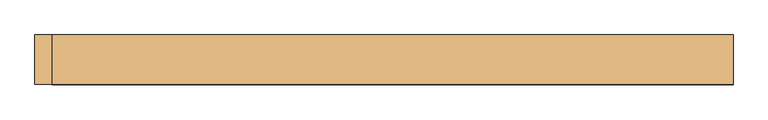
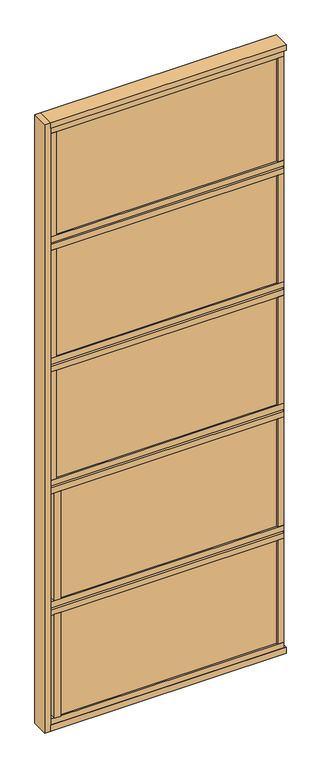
"""IFC4 building model written with IfcOpenShell, lengths in millimetres: door geometry, Mobiliário_Mobiliário de Escritório_Painel de Vidro Duplo - AV5T (Inicial e Final)_Marelli : AV5T - Temperado."""

from ifc_helpers import new_model, si_unit, frame, origin, origin_with_axes, place, context, project, spatial, polyline, outline, extrude, source, transform, mapped, element, save


def door_3b1d9ea4(model_context):
    return source(origin(), model_context, "Body", "SweptSolid", [
        extrude(outline(polyline([(600.0, 42.5), (600.0, -42.5), (-570.0, -42.5), (-570.0, 42.5), (600.0, 42.5)])), origin_with_axes(), (0.0, 0.0, 1.0), 30.0),
        extrude(outline(polyline([(590.0, 21.5), (590.0, -21.5), (-570.0, -21.5), (-570.0, 21.5), (590.0, 21.5)])), frame((0.0, 0.0, 2555.0), z_axis=(0.0, 0.0, 1.0), x_axis=(1.0, 0.0, 0.0)), (0.0, 0.0, 1.0), 10.0),
        extrude(outline(polyline([(590.0, 39.5), (590.0, -39.5), (-570.0, -39.5), (-570.0, 39.5), (590.0, 39.5)])), frame((0.0, 0.0, 2565.0), z_axis=(0.0, 0.0, 1.0), x_axis=(1.0, 0.0, 0.0)), (0.0, 0.0, 1.0), 30.0),
        extrude(outline(polyline([(-540.0, 39.5), (-540.0, -39.5), (-570.0, -39.5), (-570.0, 39.5), (-540.0, 39.5)])), frame((0.0, 0.0, 2595.0), z_axis=(0.0, 0.0, 1.0), x_axis=(1.0, 0.0, 0.0)), (0.0, 0.0, 1.0), 545.0),
        extrude(outline(polyline([(560.0, 39.5), (590.0, 39.5), (590.0, -39.5), (560.0, -39.5), (560.0, 39.5)])), frame((0.0, 0.0, 2595.0), z_axis=(0.0, 0.0, 1.0), x_axis=(1.0, 0.0, 0.0)), (0.0, 0.0, 1.0), 545.0),
        extrude(outline(polyline([(560.0, -25.5), (560.0, -31.5), (-540.0, -31.5), (-540.0, -25.5), (560.0, -25.5)])), frame((0.0, 0.0, 2595.0), z_axis=(0.0, 0.0, 1.0), x_axis=(1.0, 0.0, 0.0)), (0.0, 0.0, 1.0), 545.0),
        extrude(outline(polyline([(590.0, 39.5), (590.0, -39.5), (-570.0, -39.5), (-570.0, 39.5), (590.0, 39.5)])), frame((0.0, 0.0, 2525.0), z_axis=(0.0, 0.0, 1.0), x_axis=(1.0, 0.0, 0.0)), (0.0, 0.0, 1.0), 30.0),
        extrude(outline(polyline([(590.0, 39.5), (590.0, -39.5), (-570.0, -39.5), (-570.0, 39.5), (590.0, 39.5)])), frame((0.0, 0.0, 1925.0), z_axis=(0.0, 0.0, 1.0), x_axis=(1.0, 0.0, 0.0)), (0.0, 0.0, 1.0), 30.0),
        extrude(outline(polyline([(590.0, 21.5), (590.0, -21.5), (-570.0, -21.5), (-570.0, 21.5), (590.0, 21.5)])), frame((0.0, 0.0, 1915.0), z_axis=(0.0, 0.0, 1.0), x_axis=(1.0, 0.0, 0.0)), (0.0, 0.0, 1.0), 10.0),
        extrude(outline(polyline([(590.0, 21.5), (590.0, -21.5), (-570.0, -21.5), (-570.0, 21.5), (590.0, 21.5)])), frame((0.0, 0.0, 1275.0), z_axis=(0.0, 0.0, 1.0), x_axis=(1.0, 0.0, 0.0)), (0.0, 0.0, 1.0), 10.0),
        extrude(outline(polyline([(590.0, 21.5), (590.0, -21.5), (-570.0, -21.5), (-570.0, 21.5), (590.0, 21.5)])), frame((0.0, 0.0, 635.0), z_axis=(0.0, 0.0, 1.0), x_axis=(1.0, 0.0, 0.0)), (0.0, 0.0, 1.0), 10.0),
        extrude(outline(polyline([(590.0, 39.5), (590.0, -39.5), (-570.0, -39.5), (-570.0, 39.5), (590.0, 39.5)])), frame((0.0, 0.0, 1285.0), z_axis=(0.0, 0.0, 1.0), x_axis=(1.0, 0.0, 0.0)), (0.0, 0.0, 1.0), 30.0),
        extrude(outline(polyline([(-540.0, 39.5), (-540.0, -39.5), (-570.0, -39.5), (-570.0, 39.5), (-540.0, 39.5)])), frame((0.0, 0.0, 1315.0), z_axis=(0.0, 0.0, 1.0), x_axis=(1.0, 0.0, 0.0)), (0.0, 0.0, 1.0), 570.0),
        extrude(outline(polyline([(560.0, 39.5), (590.0, 39.5), (590.0, -39.5), (560.0, -39.5), (560.0, 39.5)])), frame((0.0, 0.0, 1315.0), z_axis=(0.0, 0.0, 1.0), x_axis=(1.0, 0.0, 0.0)), (0.0, 0.0, 1.0), 570.0),
        extrude(outline(polyline([(590.0, 39.5), (590.0, -39.5), (-570.0, -39.5), (-570.0, 39.5), (590.0, 39.5)])), frame((0.0, 0.0, 1885.0), z_axis=(0.0, 0.0, 1.0), x_axis=(1.0, 0.0, 0.0)), (0.0, 0.0, 1.0), 30.0),
        extrude(outline(polyline([(590.0, 39.5), (590.0, -39.5), (-570.0, -39.5), (-570.0, 39.5), (590.0, 39.5)])), frame((0.0, 0.0, 1245.0), z_axis=(0.0, 0.0, 1.0), x_axis=(1.0, 0.0, 0.0)), (0.0, 0.0, 1.0), 30.0),
        extrude(outline(polyline([(590.0, 39.5), (590.0, -39.5), (-570.0, -39.5), (-570.0, 39.5), (590.0, 39.5)])), frame((0.0, 0.0, 645.0), z_axis=(0.0, 0.0, 1.0), x_axis=(1.0, 0.0, 0.0)), (0.0, 0.0, 1.0), 30.0),
        extrude(outline(polyline([(-520.0, 39.5), (-520.0, -39.5), (-550.0, -39.5), (-550.0, 39.5), (-520.0, 39.5)])), frame((0.0, 0.0, 60.0), z_axis=(0.0, 0.0, 1.0), x_axis=(1.0, 0.0, 0.0)), (0.0, 0.0, 1.0), 545.0),
        extrude(outline(polyline([(560.0, 39.5), (590.0, 39.5), (590.0, -39.5), (560.0, -39.5), (560.0, 39.5)])), frame((0.0, 0.0, 60.0), z_axis=(0.0, 0.0, 1.0), x_axis=(1.0, 0.0, 0.0)), (0.0, 0.0, 1.0), 545.0),
        extrude(outline(polyline([(590.0, 39.5), (590.0, -39.5), (-570.0, -39.5), (-570.0, 39.5), (590.0, 39.5)])), frame((0.0, 0.0, 605.0), z_axis=(0.0, 0.0, 1.0), x_axis=(1.0, 0.0, 0.0)), (0.0, 0.0, 1.0), 30.0),
        extrude(outline(polyline([(590.0, 39.5), (590.0, -39.5), (-570.0, -39.5), (-570.0, 39.5), (590.0, 39.5)])), frame((0.0, 0.0, 30.0), z_axis=(0.0, 0.0, 1.0), x_axis=(1.0, 0.0, 0.0)), (0.0, 0.0, 1.0), 30.0),
        extrude(outline(polyline([(560.0, -25.5), (560.0, -31.5), (-540.0, -31.5), (-540.0, -25.5), (560.0, -25.5)])), frame((0.0, 0.0, 1315.0), z_axis=(0.0, 0.0, 1.0), x_axis=(1.0, 0.0, 0.0)), (0.0, 0.0, 1.0), 570.0),
        extrude(outline(polyline([(560.0, -25.5), (560.0, -31.5), (-540.0, -31.5), (-540.0, -25.5), (560.0, -25.5)])), frame((0.0, 0.0, 60.0), z_axis=(0.0, 0.0, 1.0), x_axis=(1.0, 0.0, 0.0)), (0.0, 0.0, 1.0), 545.0),
        extrude(outline(polyline([(560.0, 31.5), (560.0, 25.5), (-540.0, 25.5), (-540.0, 31.5), (560.0, 31.5)])), frame((0.0, 0.0, 2595.0), z_axis=(0.0, 0.0, 1.0), x_axis=(1.0, 0.0, 0.0)), (0.0, 0.0, 1.0), 545.0),
        extrude(outline(polyline([(560.0, 31.5), (560.0, 25.5), (-540.0, 25.5), (-540.0, 31.5), (560.0, 31.5)])), frame((0.0, 0.0, 1315.0), z_axis=(0.0, 0.0, 1.0), x_axis=(1.0, 0.0, 0.0)), (0.0, 0.0, 1.0), 570.0),
        extrude(outline(polyline([(560.0, 31.5), (560.0, 25.5), (-540.0, 25.5), (-540.0, 31.5), (560.0, 31.5)])), frame((0.0, 0.0, 60.0), z_axis=(0.0, 0.0, 1.0), x_axis=(1.0, 0.0, 0.0)), (0.0, 0.0, 1.0), 545.0),
        extrude(outline(polyline([(600.0, 42.5), (600.0, -42.5), (-570.0, -42.5), (-570.0, 42.5), (600.0, 42.5)])), frame((0.0, 0.0, 3170.0), z_axis=(0.0, 0.0, 1.0), x_axis=(1.0, 0.0, 0.0)), (0.0, 0.0, 1.0), 30.0),
        extrude(outline(polyline([(590.0, 39.5), (590.0, -39.5), (-570.0, -39.5), (-570.0, 39.5), (590.0, 39.5)])), frame((0.0, 0.0, 3140.0), z_axis=(0.0, 0.0, 1.0), x_axis=(1.0, 0.0, 0.0)), (0.0, 0.0, 1.0), 30.0),
        extrude(outline(polyline([(-600.0, -42.5), (-600.0, 42.5), (-570.0, 42.5), (-570.0, -42.5), (-600.0, -42.5)])), origin_with_axes(), (0.0, 0.0, 1.0), 3200.0),
        extrude(outline(polyline([(590.0, 21.5), (600.0, 21.5), (600.0, -21.5), (590.0, -21.5), (590.0, 21.5)])), frame((0.0, 0.0, 30.0), z_axis=(0.0, 0.0, 1.0), x_axis=(1.0, 0.0, 0.0)), (0.0, 0.0, 1.0), 3140.0),
        extrude(outline(polyline([(-540.0, 39.5), (-540.0, -39.5), (-570.0, -39.5), (-570.0, 39.5), (-540.0, 39.5)])), frame((0.0, 0.0, 1955.0), z_axis=(0.0, 0.0, 1.0), x_axis=(1.0, 0.0, 0.0)), (0.0, 0.0, 1.0), 570.0),
        extrude(outline(polyline([(560.0, 39.5), (590.0, 39.5), (590.0, -39.5), (560.0, -39.5), (560.0, 39.5)])), frame((0.0, 0.0, 1955.0), z_axis=(0.0, 0.0, 1.0), x_axis=(1.0, 0.0, 0.0)), (0.0, 0.0, 1.0), 570.0),
        extrude(outline(polyline([(560.0, -25.5), (560.0, -31.5), (-540.0, -31.5), (-540.0, -25.5), (560.0, -25.5)])), frame((0.0, 0.0, 1955.0), z_axis=(0.0, 0.0, 1.0), x_axis=(1.0, 0.0, 0.0)), (0.0, 0.0, 1.0), 570.0),
        extrude(outline(polyline([(560.0, 31.5), (560.0, 25.5), (-540.0, 25.5), (-540.0, 31.5), (560.0, 31.5)])), frame((0.0, 0.0, 1955.0), z_axis=(0.0, 0.0, 1.0), x_axis=(1.0, 0.0, 0.0)), (0.0, 0.0, 1.0), 570.0),
        extrude(outline(polyline([(-520.0, 39.5), (-520.0, -39.5), (-550.0, -39.5), (-550.0, 39.5), (-520.0, 39.5)])), frame((0.0, 0.0, 675.0), z_axis=(0.0, 0.0, 1.0), x_axis=(1.0, 0.0, 0.0)), (0.0, 0.0, 1.0), 570.0),
        extrude(outline(polyline([(560.0, 39.5), (590.0, 39.5), (590.0, -39.5), (560.0, -39.5), (560.0, 39.5)])), frame((0.0, 0.0, 675.0), z_axis=(0.0, 0.0, 1.0), x_axis=(1.0, 0.0, 0.0)), (0.0, 0.0, 1.0), 570.0),
        extrude(outline(polyline([(560.0, -25.5), (560.0, -31.5), (-540.0, -31.5), (-540.0, -25.5), (560.0, -25.5)])), frame((0.0, 0.0, 675.0), z_axis=(0.0, 0.0, 1.0), x_axis=(1.0, 0.0, 0.0)), (0.0, 0.0, 1.0), 570.0),
        extrude(outline(polyline([(560.0, 31.5), (560.0, 25.5), (-540.0, 25.5), (-540.0, 31.5), (560.0, 31.5)])), frame((0.0, 0.0, 675.0), z_axis=(0.0, 0.0, 1.0), x_axis=(1.0, 0.0, 0.0)), (0.0, 0.0, 1.0), 570.0),
    ])


if __name__ == "__main__":
    model = new_model("IFC4")
    model_context = context("Model", 3, world=origin())
    ifc_project = project(units=[si_unit("LENGTHUNIT", "METRE", prefix="MILLI")], contexts=[model_context])
    site = spatial("IfcSite", under=ifc_project)
    building = spatial("IfcBuilding", under=site)
    placement = place(None, origin())
    door_shape = door_3b1d9ea4(model_context)
    element("IfcDoor", 1, ObjectType="Mobiliário_Mobiliário de Escritório_Painel de Vidro Duplo - AV5T (Inicial e Final)_Marelli : AV5T - Temperado", at=placement, inside=building, context=model_context, shape_type="MappedRepresentation", body=[
        mapped(door_shape, transform((0.0, 0.0, 0.0), x_axis=(1.0, 0.0, 0.0), y_axis=(0.0, 1.0, 0.0), z_axis=(0.0, 0.0, 1.0))),
    ])
    save(model, "model.ifc")
